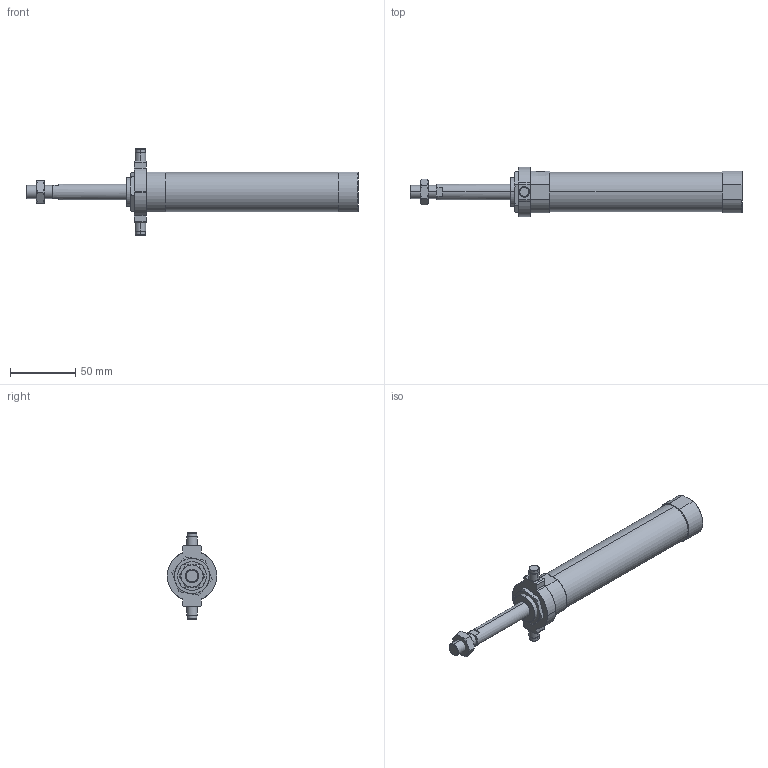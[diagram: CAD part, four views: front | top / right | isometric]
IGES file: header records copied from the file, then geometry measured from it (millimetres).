
Start section: SolidWorks IGES file using analytic representation for surfaces
Global section: file name: C:\Users\Toshiba\Desktop\JGND0-25-50-T.IGS; native system: SolidWorks 2014; preprocessor: SolidWorks 2014; author: Toshiba; date: 160804.101155; units: millimetre
Bounding box: 254 x 38 x 66 mm (x, y, z)
Surface area: 27626.8 mm2 (no closed solid volume)
Topology: 0 solids, 0 shells, 124 faces, 2014 edges, 2012 vertices
Faces by surface type: bspline 69, revolution 55
